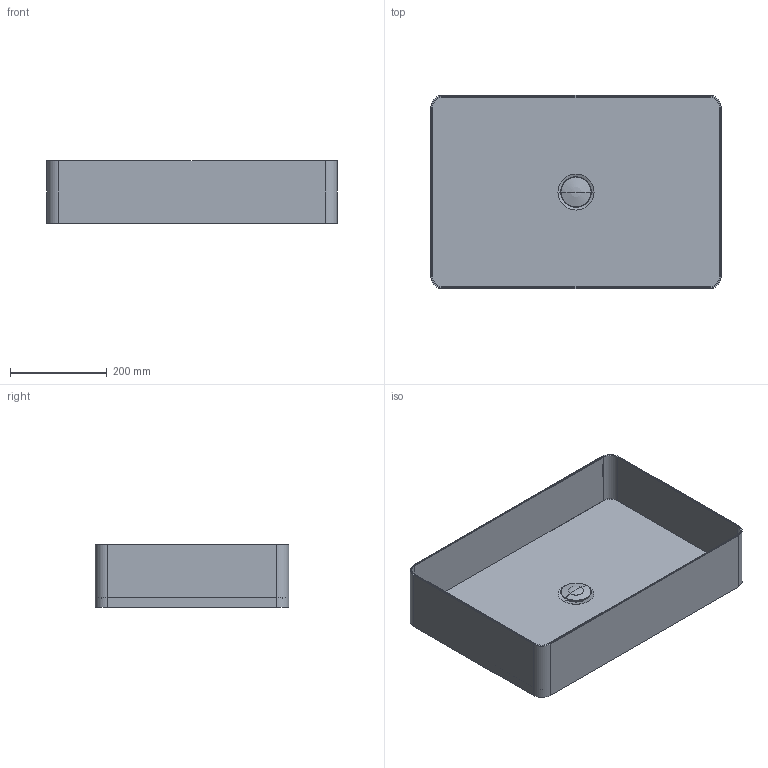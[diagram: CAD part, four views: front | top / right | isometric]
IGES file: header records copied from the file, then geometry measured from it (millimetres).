
Start section:  PTC IGES file: 49330.igs
Global section: file name: 49330.igs; native system: Creo Parametric by PTC Inc.; preprocessor: 2022014; author: carloff; organization: Unknown; date: 20241017.151754; units: millimetre
Bounding box: 600 x 400 x 130 mm (x, y, z)
Surface area: 1431436.3 mm2 (no closed solid volume)
Topology: 0 solids, 0 shells, 429 faces, 2295 edges, 2292 vertices
Faces by surface type: bspline 168, revolution 159, extrusion 102
